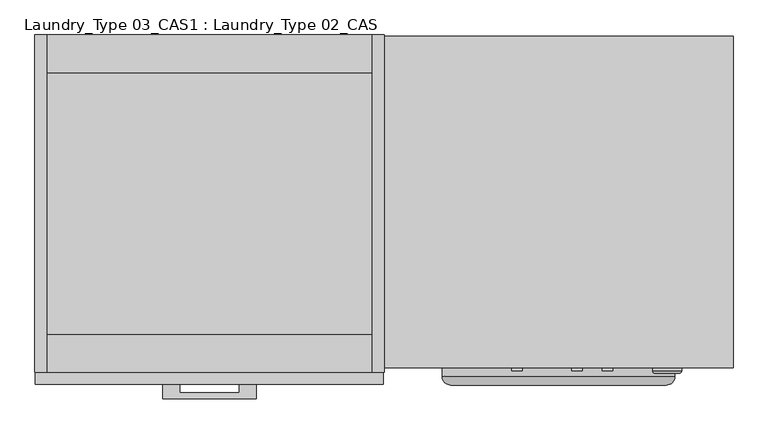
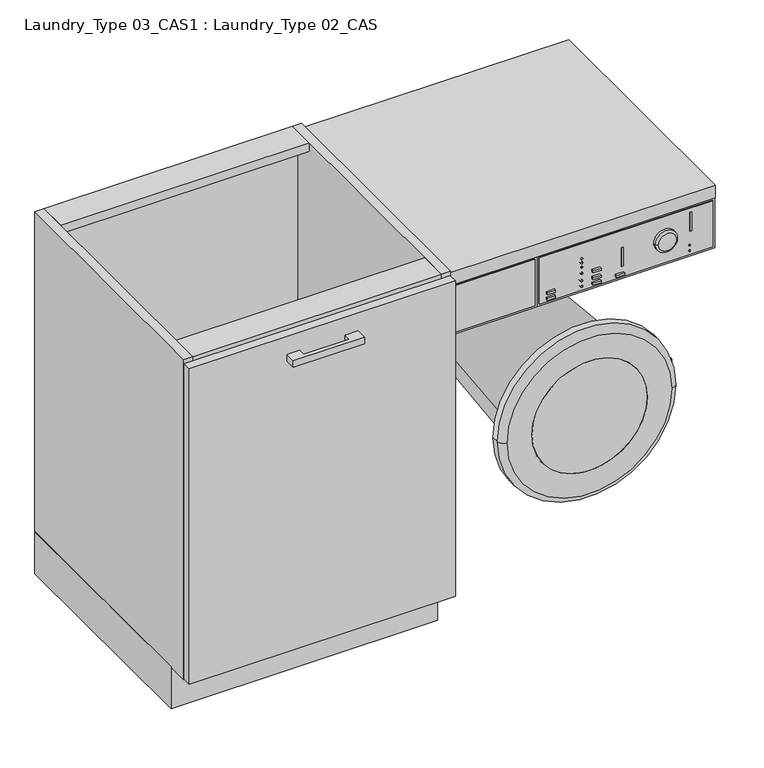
"""IFC4 building model written with IfcOpenShell, lengths in millimetres: furniture geometry, Laundry_Type 03_CAS1 : Laundry_Type 02_CAS."""

from ifc_helpers import new_model, si_unit, point, frame, frame_2d, origin, origin_with_axes, place, context, project, spatial, polyline, circle_curve, ellipse_curve, trimmed, segment, composite_curve, outline, extrude, faceted_brep, source, transform, mapped, element, save
from ifc_brep_helpers import plane_surface, cylinder_surface, revolved_surface, advanced_brep


def laundry_type_03_cas1_laundry_type_02_cas_e1f235b0(model_context):
    return source(origin(), model_context, "Body", "SolidModel", [
        extrude(outline(polyline([(1585.0, -53.039124), (1585.0, -28.039124), (1614.0, -28.039124), (1614.0, -43.039124), (1716.0, -43.039124), (1716.0, -28.039124), (1745.0, -28.039124), (1745.0, -53.039124), (1585.0, -53.039124)])), frame((0.0, 0.0, 792.5), z_axis=(0.0, 0.0, 1.0), x_axis=(1.0, 0.0, 0.0)), (0.0, 0.0, 1.0), 15.0),
        extrude(outline(polyline([(1964.0, -28.039124), (1366.0, -28.039124), (1366.0, -8.039124), (1964.0, -8.039124), (1964.0, -28.039124)])), frame((0.0, 0.0, 100.0), z_axis=(0.0, 0.0, 1.0), x_axis=(1.0, 0.0, 0.0)), (0.0, 0.0, 1.0), 750.0),
        extrude(outline(polyline([(1365.0, 41.960876), (1365.0, 571.960876), (1385.0, 571.960876), (1385.0, 61.960876), (1945.0, 61.960876), (1945.0, 571.960876), (1965.0, 571.960876), (1965.0, 41.960876), (1365.0, 41.960876)])), origin_with_axes(), (0.0, 0.0, 1.0), 100.0),
        extrude(outline(polyline([(1945.0, 571.960876), (1965.0, 571.960876), (1965.0, -8.039124), (1945.0, -8.039124), (1945.0, 571.960876)])), frame((0.0, 0.0, 100.0), z_axis=(0.0, 0.0, 1.0), x_axis=(1.0, 0.0, 0.0)), (0.0, 0.0, 1.0), 760.0),
        extrude(outline(polyline([(1365.0, 571.960876), (1385.0, 571.960876), (1385.0, -8.039124), (1365.0, -8.039124), (1365.0, 571.960876)])), frame((0.0, 0.0, 100.0), z_axis=(0.0, 0.0, 1.0), x_axis=(1.0, 0.0, 0.0)), (0.0, 0.0, 1.0), 760.0),
        extrude(outline(polyline([(1945.0, 551.960876), (1385.0, 551.960876), (1385.0, 571.960876), (1945.0, 571.960876), (1945.0, 551.960876)])), frame((0.0, 0.0, 100.0), z_axis=(0.0, 0.0, 1.0), x_axis=(1.0, 0.0, 0.0)), (0.0, 0.0, 1.0), 740.0),
        extrude(outline(polyline([(1945.0, 551.960876), (1945.0, -8.039124), (1385.0, -8.039124), (1385.0, 551.960876), (1945.0, 551.960876)])), frame((0.0, 0.0, 100.0), z_axis=(0.0, 0.0, 1.0), x_axis=(1.0, 0.0, 0.0)), (0.0, 0.0, 1.0), 20.0),
        extrude(outline(polyline([(1945.0, 571.960876), (1945.0, 506.960876), (1385.0, 506.960876), (1385.0, 571.960876), (1945.0, 571.960876)])), frame((0.0, 0.0, 840.0), z_axis=(0.0, 0.0, 1.0), x_axis=(1.0, 0.0, 0.0)), (0.0, 0.0, 1.0), 20.0),
        extrude(outline(polyline([(1385.0, 56.960876), (1945.0, 56.960876), (1945.0, -8.039124), (1385.0, -8.039124), (1385.0, 56.960876)])), frame((0.0, 0.0, 840.0), z_axis=(0.0, 0.0, 1.0), x_axis=(1.0, 0.0, 0.0)), (0.0, 0.0, 1.0), 20.0),
        extrude(outline(polyline([(2465.0, 0.085876), (2465.0, -4.914124), (2450.0, -4.914124), (2450.0, 0.085876), (2465.0, 0.085876)])), frame((0.0, 0.0, 374.6157103), z_axis=(0.0, 0.0, 1.0), x_axis=(1.0, 0.0, 0.0)), (0.0, 0.0, 1.0), 100.0),
        advanced_brep(
        [(2080.0, -29.914124, 425.0), (2450.0, -29.914124, 425.0), (2135.0, -29.914124, 425.0), (2395.0, -29.914124, 425.0), (2065.0, 0.085876, 425.0), (2465.0, 0.085876, 425.0), (2135.0, 0.085876, 425.0), (2395.0, 0.085876, 425.0), (2465.0, -14.9141438, 425.0), (2065.0, -14.914124, 425.0)],
        [
            (0, 1, circle_curve(frame((2265.0, -29.914124, 425.0), z_axis=(0.0, -1.0, 0.0), x_axis=(-0.9999999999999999, 0.0, 0.0)), 185.0)),
            (1, 0, circle_curve(frame((2265.0, -29.914124, 425.0), z_axis=(0.0, -1.0, 0.0), x_axis=(0.9999999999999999, 0.0, 0.0)), 185.0)),
            (2, 3, circle_curve(frame((2265.0, -29.914124, 425.0), z_axis=(0.0, 1.0, 0.0), x_axis=(0.9999999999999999, 0.0, 0.0)), 130.0)),
            (3, 2, circle_curve(frame((2265.0, -29.914124, 425.0), z_axis=(0.0, 1.0, 0.0), x_axis=(0.9999999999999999, 0.0, 0.0)), 130.0)),
            (4, 5, circle_curve(frame((2265.0, 0.085876, 425.0), z_axis=(0.0, 1.0, 0.0), x_axis=(0.9999999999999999, 0.0, 0.0)), 200.0)),
            (5, 4, circle_curve(frame((2265.0, 0.085876, 425.0), z_axis=(0.0, 1.0, 0.0), x_axis=(0.9999999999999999, 0.0, 0.0)), 200.0)),
            (6, 7, circle_curve(frame((2265.0, 0.085876, 425.0), z_axis=(0.0, -1.0, 0.0), x_axis=(0.9999999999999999, 0.0, 0.0)), 130.0)),
            (7, 6, circle_curve(frame((2265.0, 0.085876, 425.0), z_axis=(0.0, -1.0, 0.0), x_axis=(0.9999999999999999, 0.0, 0.0)), 130.0)),
            (5, 8),
            (8, 9, circle_curve(frame((2265.0, -14.914124, 425.0), z_axis=(0.0, 1.0, 0.0), x_axis=(0.9999999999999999, 0.0, 0.0)), 200.0)),
            (9, 4),
            (9, 8, circle_curve(frame((2265.0, -14.914124, 425.0), z_axis=(0.0, 1.0, 0.0), x_axis=(0.9999999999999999, 0.0, 0.0)), 200.0)),
            (2, 6),
            (7, 3),
            (8, 1, circle_curve(frame((2450.0, -14.914124, 425.0), z_axis=(0.0, 0.0, -1.0), x_axis=(-0.9999999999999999, 0.0, 0.0)), 15.0)),
            (0, 9, circle_curve(frame((2080.0, -14.914124, 425.0), z_axis=(0.0, 0.0, -1.0), x_axis=(0.9999999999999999, 0.0, 0.0)), 15.0)),
        ],
        [
            plane_surface(frame((2465.0, -29.914124, 425.0), z_axis=(0.0, -1.0, 0.0), x_axis=(0.0, 0.0, 1.0))),
            plane_surface(frame((2465.0, 0.085876, 425.0), z_axis=(0.0, 1.0, 0.0), x_axis=(0.0, 0.0, -1.0))),
            cylinder_surface(frame((2265.0, 0.085876, 425.0), z_axis=(0.0, -0.9999999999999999, 0.0), x_axis=(0.9999999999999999, 0.0, 0.0)), 200.0),
            revolved_surface(polyline([(2395.0, 0.085876, 425.0), (2395.0, -29.914123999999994, 425.0)]), (2265.0, 0.085876, 425.0), (0.0, 0.9999999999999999, 0.0)),
            revolved_surface(trimmed(ellipse_curve(frame((2080.0, -14.914124, 425.0), z_axis=(0.0, 0.0, 1.0), x_axis=(0.9999999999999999, 0.0, 0.0)), 15.0, 15.0), [point((2065.0, -14.914124, 425.0))], [point((2080.0, -29.914124, 425.0))], True, "CARTESIAN"), (2265.0, -29.914124, 425.0), (0.0, -0.9999999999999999, 0.0)),
            revolved_surface(trimmed(ellipse_curve(frame((2450.0, -14.914124, 425.0), z_axis=(0.0, 0.0, -1.0), x_axis=(-0.9999999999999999, 0.0, 0.0)), 15.0, 15.0), [point((2465.0, -14.914124, 425.0))], [point((2450.0, -29.914124, 425.0))], True, "CARTESIAN"), (2265.0, -29.914124, 425.0), (0.0, -0.9999999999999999, 0.0)),
        ],
        [
            (0, [[1, 2], [3, 4]]),
            (1, [[5, 6], [7, 8]]),
            (2, [[-6, 9, 10, 11]]),
            (2, [[-5, -11, 12, -9]]),
            (3, [[-3, 13, -8, 14]]),
            (3, [[-4, -14, -7, -13]]),
            (4, [[15, -1, 16, -10]]),
            (5, [[-15, -12, -16, -2]]),
        ],
    ),
        extrude(outline(composite_curve([segment(trimmed(circle_curve(frame_2d((425.0, 2265.0)), 130.0), [point((425.0, 2135.0))], [point((425.0, 2395.0))], False, "CARTESIAN"), True, "CONTINUOUS"), segment(trimmed(circle_curve(frame_2d((425.0, 2265.0)), 130.0), [point((425.0, 2395.0))], [point((425.0, 2135.0))], False, "CARTESIAN"), True, "CONTINUOUS")], self_intersect=False)), frame((0.0, -29.914124, 0.0), z_axis=(0.0, 1.0, 0.0), x_axis=(0.0, 0.0, 1.0)), (0.0, 0.0, 1.0), 30.0),
        extrude(outline(polyline([(2565.0, 570.085876), (2565.0, 0.085876), (1965.0, 0.085876), (1965.0, 570.085876), (2565.0, 570.085876)])), frame((0.0, 0.0, 820.0), z_axis=(0.0, 0.0, 1.0), x_axis=(1.0, 0.0, 0.0)), (0.0, 0.0, 1.0), 30.0),
        faceted_brep([(1970.0, 0.085876, 815.0), (1970.0, 0.085876, 705.0), (2160.0, 0.085876, 705.0), (2160.0, 0.085876, 815.0), (2165.0, 20.085876, 820.0), (2165.0, 20.085876, 700.0), (1965.0, 20.085876, 700.0), (1965.0, 20.085876, 820.0), (1965.0, 2.027875, 820.0), (2165.0, 2.027875, 820.0), (1965.0, 2.027875, 700.0), (2165.0, 2.027875, 700.0), (1970.0, 2.027875, 815.0), (1970.0, 2.027875, 705.0), (2160.0, 2.027875, 705.0), (2160.0, 2.027875, 815.0)], [[[0, 1, 2, 3]], [[4, 5, 6, 7]], [[4, 7, 8, 9]], [[7, 6, 10, 8]], [[6, 5, 11, 10]], [[5, 4, 9, 11]], [[12, 13, 1, 0]], [[1, 13, 14, 2]], [[2, 14, 15, 3]], [[12, 0, 3, 15]], [[9, 8, 10, 11], [13, 12, 15, 14]]]),
        extrude(outline(composite_curve([segment(trimmed(circle_curve(frame_2d((780.0, 2265.0)), 2.0), [point((780.0, 2263.0))], [point((780.0, 2267.0))], False, "CARTESIAN"), True, "CONTINUOUS"), segment(trimmed(circle_curve(frame_2d((780.0, 2265.0)), 2.0), [point((780.0, 2267.0))], [point((780.0, 2263.0))], False, "CARTESIAN"), True, "CONTINUOUS")], self_intersect=False)), frame((0.0, 0.085876, 0.0), z_axis=(0.0, 1.0, 0.0), x_axis=(0.0, 0.0, 1.0)), (0.0, 0.0, 1.0), 20.0),
        extrude(outline(composite_curve([segment(trimmed(circle_curve(frame_2d((770.0, 2265.0)), 2.0), [point((770.0, 2263.0))], [point((770.0, 2267.0))], False, "CARTESIAN"), True, "CONTINUOUS"), segment(trimmed(circle_curve(frame_2d((770.0, 2265.0)), 2.0), [point((770.0, 2267.0))], [point((770.0, 2263.0))], False, "CARTESIAN"), True, "CONTINUOUS")], self_intersect=False)), frame((0.0, 0.085876, 0.0), z_axis=(0.0, 1.0, 0.0), x_axis=(0.0, 0.0, 1.0)), (0.0, 0.0, 1.0), 20.0),
        extrude(outline(composite_curve([segment(trimmed(circle_curve(frame_2d((760.0, 2265.0)), 2.0), [point((760.0, 2263.0))], [point((760.0, 2267.0))], False, "CARTESIAN"), True, "CONTINUOUS"), segment(trimmed(circle_curve(frame_2d((760.0, 2265.0)), 2.0), [point((760.0, 2267.0))], [point((760.0, 2263.0))], False, "CARTESIAN"), True, "CONTINUOUS")], self_intersect=False)), frame((0.0, 0.085876, 0.0), z_axis=(0.0, 1.0, 0.0), x_axis=(0.0, 0.0, 1.0)), (0.0, 0.0, 1.0), 20.0),
        extrude(outline(composite_curve([segment(trimmed(circle_curve(frame_2d((745.0, 2265.0)), 2.0), [point((745.0, 2263.0))], [point((745.0, 2267.0))], False, "CARTESIAN"), True, "CONTINUOUS"), segment(trimmed(circle_curve(frame_2d((745.0, 2265.0)), 2.0), [point((745.0, 2267.0))], [point((745.0, 2263.0))], False, "CARTESIAN"), True, "CONTINUOUS")], self_intersect=False)), frame((0.0, 0.085876, 0.0), z_axis=(0.0, 1.0, 0.0), x_axis=(0.0, 0.0, 1.0)), (0.0, 0.0, 1.0), 20.0),
        extrude(outline(composite_curve([segment(trimmed(circle_curve(frame_2d((727.4920971, 2265.0)), 2.0), [point((727.4920971, 2263.0))], [point((727.4920971, 2267.0))], False, "CARTESIAN"), True, "CONTINUOUS"), segment(trimmed(circle_curve(frame_2d((727.4920971, 2265.0)), 2.0), [point((727.4920971, 2267.0))], [point((727.4920971, 2263.0))], False, "CARTESIAN"), True, "CONTINUOUS")], self_intersect=False)), frame((0.0, 0.085876, 0.0), z_axis=(0.0, 1.0, 0.0), x_axis=(0.0, 0.0, 1.0)), (0.0, 0.0, 1.0), 20.0),
        extrude(outline(composite_curve([segment(trimmed(circle_curve(frame_2d((714.2434315, 2265.0)), 2.0), [point((714.2434315, 2263.0))], [point((714.2434315, 2267.0))], False, "CARTESIAN"), True, "CONTINUOUS"), segment(trimmed(circle_curve(frame_2d((714.2434315, 2265.0)), 2.0), [point((714.2434315, 2267.0))], [point((714.2434315, 2263.0))], False, "CARTESIAN"), True, "CONTINUOUS")], self_intersect=False)), frame((0.0, 0.085876, 0.0), z_axis=(0.0, 1.0, 0.0), x_axis=(0.0, 0.0, 1.0)), (0.0, 0.0, 1.0), 20.0),
        extrude(outline(polyline([(2358.3333333, 0.085876), (2353.3333333, 0.085876), (2353.3333333, 20.085876), (2358.3333333, 20.085876), (2358.3333333, 0.085876)])), frame((0.0, 0.0, 730.0), z_axis=(0.0, 0.0, 1.0), x_axis=(1.0, 0.0, 0.0)), (0.0, 0.0, 1.0), 45.0),
        extrude(outline(polyline([(2512.5211292, 0.085876), (2507.5211292, 0.085876), (2507.5211292, 20.085876), (2512.5211292, 20.085876), (2512.5211292, 0.085876)])), frame((0.0, 0.0, 760.0), z_axis=(0.0, 0.0, 1.0), x_axis=(1.0, 0.0, 0.0)), (0.0, 0.0, 1.0), 45.0),
        extrude(outline(composite_curve([segment(trimmed(circle_curve(frame_2d((727.4920971, 2507.5211292)), 2.0), [point((727.4920971, 2505.5211292))], [point((727.4920971, 2509.5211292))], False, "CARTESIAN"), True, "CONTINUOUS"), segment(trimmed(circle_curve(frame_2d((727.4920971, 2507.5211292)), 2.0), [point((727.4920971, 2509.5211292))], [point((727.4920971, 2505.5211292))], False, "CARTESIAN"), True, "CONTINUOUS")], self_intersect=False)), frame((0.0, 0.085876, 0.0), z_axis=(0.0, 1.0, 0.0), x_axis=(0.0, 0.0, 1.0)), (0.0, 0.0, 1.0), 20.0),
        extrude(outline(composite_curve([segment(trimmed(circle_curve(frame_2d((714.2434315, 2507.5211292)), 2.0), [point((714.2434315, 2505.5211292))], [point((714.2434315, 2509.5211292))], False, "CARTESIAN"), True, "CONTINUOUS"), segment(trimmed(circle_curve(frame_2d((714.2434315, 2507.5211292)), 2.0), [point((714.2434315, 2509.5211292))], [point((714.2434315, 2505.5211292))], False, "CARTESIAN"), True, "CONTINUOUS")], self_intersect=False)), frame((0.0, 0.085876, 0.0), z_axis=(0.0, 1.0, 0.0), x_axis=(0.0, 0.0, 1.0)), (0.0, 0.0, 1.0), 20.0),
        advanced_brep(
        [(2431.6666667, -9.914124, 760.0), (2471.6666667, -9.914124, 760.0), (2476.6666667, 0.085876, 760.0), (2426.6666667, 0.085876, 760.0), (2426.6666667, -4.9141259, 760.0), (2476.6666667, -4.914124, 760.0)],
        [
            (0, 1, circle_curve(frame((2451.6666667, -9.914124, 760.0), z_axis=(0.0, -1.0, 0.0), x_axis=(-1.0, 0.0, 0.0)), 20.0)),
            (1, 0, circle_curve(frame((2451.6666667, -9.914124, 760.0), z_axis=(0.0, -1.0, 0.0), x_axis=(1.0, 0.0, 0.0)), 20.0)),
            (2, 3, circle_curve(frame((2451.6666667, 0.085876, 760.0), z_axis=(0.0, 1.0, 0.0), x_axis=(1.0, 0.0, 0.0)), 25.0)),
            (3, 2, circle_curve(frame((2451.6666667, 0.085876, 760.0), z_axis=(0.0, 1.0, 0.0), x_axis=(1.0, 0.0, 0.0)), 25.0)),
            (3, 4),
            (4, 5, circle_curve(frame((2451.6666667, -4.914124, 760.0), z_axis=(0.0, 1.0, 0.0), x_axis=(1.0, 0.0, 0.0)), 25.0)),
            (5, 2),
            (5, 4, circle_curve(frame((2451.6666667, -4.914124, 760.0), z_axis=(0.0, 1.0, 0.0), x_axis=(1.0, 0.0, 0.0)), 25.0)),
            (5, 1, circle_curve(frame((2471.6666667, -4.914124, 760.0), z_axis=(0.0, 0.0, -1.0), x_axis=(-1.0, 0.0, 0.0)), 5.0)),
            (0, 4, circle_curve(frame((2431.6666667, -4.914124, 760.0), z_axis=(0.0, 0.0, -1.0), x_axis=(1.0, 0.0, 0.0)), 5.0)),
        ],
        [
            plane_surface(frame((2476.6666667, -9.914124, 760.0), z_axis=(0.0, -1.0, 0.0), x_axis=(0.0, 0.0, 1.0))),
            plane_surface(frame((2476.6666667, 0.085876, 760.0), z_axis=(0.0, 1.0, 0.0), x_axis=(0.0, 0.0, -1.0))),
            cylinder_surface(frame((2451.6666667, 0.085876, 760.0), z_axis=(0.0, -1.0, 0.0), x_axis=(1.0, 0.0, 0.0)), 25.0),
            revolved_surface(trimmed(ellipse_curve(frame((2431.6666667, -4.914124, 760.0), z_axis=(0.0, 0.0, 1.0), x_axis=(1.0, 0.0, 0.0)), 5.0, 5.0), [point((2426.6666667, -4.914124, 760.0))], [point((2431.6666667, -9.914124, 760.0))], True, "CARTESIAN"), (2451.6666667, -9.914124, 760.0), (0.0, -1.0, 0.0)),
            revolved_surface(trimmed(ellipse_curve(frame((2471.6666667, -4.914124, 760.0), z_axis=(0.0, 0.0, -1.0), x_axis=(-1.0, 0.0, 0.0)), 5.0, 5.0), [point((2476.6666667, -4.914124, 760.0))], [point((2471.6666667, -9.914124, 760.0))], True, "CARTESIAN"), (2451.6666667, -9.914124, 760.0), (0.0, -1.0, 0.0)),
        ],
        [
            (0, [[1, 2]]),
            (1, [[3, 4]]),
            (2, [[-4, 5, 6, 7]]),
            (2, [[-3, -7, 8, -5]]),
            (3, [[9, -1, 10, -8]]),
            (4, [[-9, -6, -10, -2]]),
        ],
    ),
        extrude(outline(polyline([(2203.0384758, -4.914124), (2184.8257579, -4.914124), (2184.8257579, 0.085876), (2203.0384758, 0.085876), (2203.0384758, -4.914124)])), frame((0.0, 0.0, 725.0), z_axis=(0.0, 0.0, 1.0), x_axis=(1.0, 0.0, 0.0)), (0.0, 0.0, 1.0), 5.0),
        extrude(outline(polyline([(2203.0384758, -4.914124), (2184.8257579, -4.914124), (2184.8257579, 0.085876), (2203.0384758, 0.085876), (2203.0384758, -4.914124)])), frame((0.0, 0.0, 711.6933336), z_axis=(0.0, 0.0, 1.0), x_axis=(1.0, 0.0, 0.0)), (0.0, 0.0, 1.0), 5.0),
        extrude(outline(polyline([(2305.5384758, -4.914124), (2287.3257579, -4.914124), (2287.3257579, 0.085876), (2305.5384758, 0.085876), (2305.5384758, -4.914124)])), frame((0.0, 0.0, 711.6933336), z_axis=(0.0, 0.0, 1.0), x_axis=(1.0, 0.0, 0.0)), (0.0, 0.0, 1.0), 5.0),
        extrude(outline(polyline([(2305.5384758, -4.914124), (2287.3257579, -4.914124), (2287.3257579, 0.085876), (2305.5384758, 0.085876), (2305.5384758, -4.914124)])), frame((0.0, 0.0, 725.0), z_axis=(0.0, 0.0, 1.0), x_axis=(1.0, 0.0, 0.0)), (0.0, 0.0, 1.0), 5.0),
        extrude(outline(polyline([(2305.5384758, -4.914124), (2287.3257579, -4.914124), (2287.3257579, 0.085876), (2305.5384758, 0.085876), (2305.5384758, -4.914124)])), frame((0.0, 0.0, 741.6933336), z_axis=(0.0, 0.0, 1.0), x_axis=(1.0, 0.0, 0.0)), (0.0, 0.0, 1.0), 5.0),
        extrude(outline(polyline([(2358.3333333, -4.914124), (2340.1206154, -4.914124), (2340.1206154, 0.085876), (2358.3333333, 0.085876), (2358.3333333, -4.914124)])), frame((0.0, 0.0, 711.6933336), z_axis=(0.0, 0.0, 1.0), x_axis=(1.0, 0.0, 0.0)), (0.0, 0.0, 1.0), 5.0),
        advanced_brep(
        [(2170.0, 0.085876, 815.0), (2170.0, 0.085876, 705.0), (2560.0, 0.085876, 705.0), (2560.0, 0.085876, 815.0), (2476.6666667, 0.085876, 760.0), (2426.6666667, 0.085876, 760.0), (2512.5211292, 0.085876, 805.0), (2512.5211292, 0.085876, 760.0), (2507.5211292, 0.085876, 760.0), (2507.5211292, 0.085876, 805.0), (2353.3333333, 0.085876, 775.0), (2358.3333333, 0.085876, 775.0), (2358.3333333, 0.085876, 730.0), (2353.3333333, 0.085876, 730.0), (2340.1206154, 0.085876, 711.6933336), (2340.1206154, 0.085876, 716.6933336), (2358.3333333, 0.085876, 716.6933336), (2358.3333333, 0.085876, 711.6933336), (2267.0, 0.085876, 760.0), (2263.0, 0.085876, 760.0), (2287.3257579, 0.085876, 741.6933336), (2287.3257579, 0.085876, 746.6933336), (2305.5384758, 0.085876, 746.6933336), (2305.5384758, 0.085876, 741.6933336), (2287.3257579, 0.085876, 725.0), (2287.3257579, 0.085876, 730.0), (2305.5384758, 0.085876, 730.0), (2305.5384758, 0.085876, 725.0), (2287.3257579, 0.085876, 711.6933336), (2287.3257579, 0.085876, 716.6933336), (2305.5384758, 0.085876, 716.6933336), (2305.5384758, 0.085876, 711.6933336), (2184.8257579, 0.085876, 725.0), (2184.8257579, 0.085876, 730.0), (2203.0384758, 0.085876, 730.0), (2203.0384758, 0.085876, 725.0), (2184.8257579, 0.085876, 711.6933336), (2184.8257579, 0.085876, 716.6933336), (2203.0384758, 0.085876, 716.6933336), (2203.0384758, 0.085876, 711.6933336), (2267.0, 0.085876, 770.0), (2263.0, 0.085876, 770.0), (2267.0, 0.085876, 780.0), (2263.0, 0.085876, 780.0), (2267.0, 0.085876, 745.0), (2263.0, 0.085876, 745.0), (2267.0, 0.085876, 727.4920971), (2263.0, 0.085876, 727.4920971), (2267.0, 0.085876, 714.2434315), (2263.0, 0.085876, 714.2434315), (2509.5211292, 0.085876, 727.4920971), (2505.5211292, 0.085876, 727.4920971), (2509.5211292, 0.085876, 714.2434315), (2505.5211292, 0.085876, 714.2434315), (2565.0, 20.085876, 820.0), (2565.0, 20.085876, 700.0), (2165.0, 20.085876, 700.0), (2165.0, 20.085876, 820.0), (2426.6666667, 20.085876, 760.0), (2476.6666667, 20.085876, 760.0), (2512.5211292, 20.085876, 760.0), (2512.5211292, 20.085876, 805.0), (2507.5211292, 20.085876, 805.0), (2507.5211292, 20.085876, 760.0), (2358.3333333, 20.085876, 775.0), (2353.3333333, 20.085876, 775.0), (2353.3333333, 20.085876, 730.0), (2358.3333333, 20.085876, 730.0), (2340.1206154, 20.085876, 716.6933336), (2340.1206154, 20.085876, 711.6933336), (2358.3333333, 20.085876, 711.6933336), (2358.3333333, 20.085876, 716.6933336), (2263.0, 20.085876, 760.0), (2267.0, 20.085876, 760.0), (2287.3257579, 20.085876, 746.6933336), (2287.3257579, 20.085876, 741.6933336), (2305.5384758, 20.085876, 741.6933336), (2305.5384758, 20.085876, 746.6933336), (2287.3257579, 20.085876, 730.0), (2287.3257579, 20.085876, 725.0), (2305.5384758, 20.085876, 725.0), (2305.5384758, 20.085876, 730.0), (2287.3257579, 20.085876, 716.6933336), (2287.3257579, 20.085876, 711.6933336), (2305.5384758, 20.085876, 711.6933336), (2305.5384758, 20.085876, 716.6933336), (2184.8257579, 20.085876, 730.0), (2184.8257579, 20.085876, 725.0), (2203.0384758, 20.085876, 725.0), (2203.0384758, 20.085876, 730.0), (2184.8257579, 20.085876, 716.6933336), (2184.8257579, 20.085876, 711.6933336), (2203.0384758, 20.085876, 711.6933336), (2203.0384758, 20.085876, 716.6933336), (2263.0, 20.085876, 770.0), (2267.0, 20.085876, 770.0), (2263.0, 20.085876, 780.0), (2267.0, 20.085876, 780.0), (2263.0, 20.085876, 745.0), (2267.0, 20.085876, 745.0), (2263.0, 20.085876, 727.4920971), (2267.0, 20.085876, 727.4920971), (2263.0, 20.085876, 714.2434315), (2267.0, 20.085876, 714.2434315), (2505.5211292, 20.085876, 727.4920971), (2509.5211292, 20.085876, 727.4920971), (2505.5211292, 20.085876, 714.2434315), (2509.5211292, 20.085876, 714.2434315), (2165.0, 2.027875, 820.0), (2565.0, 2.027875, 820.0), (2165.0, 2.027875, 700.0), (2565.0, 2.027875, 700.0), (2170.0, 2.027875, 815.0), (2170.0, 2.027875, 705.0), (2560.0, 2.027875, 705.0), (2560.0, 2.027875, 815.0)],
        [
            (0, 1),
            (1, 2),
            (2, 3),
            (3, 0),
            (4, 5, circle_curve(frame((2451.6666667, 0.085876, 760.0), z_axis=(0.0, 1.0, 0.0), x_axis=(1.0, 0.0, 0.0)), 25.0)),
            (5, 4, circle_curve(frame((2451.6666667, 0.085876, 760.0), z_axis=(0.0, 1.0, 0.0), x_axis=(1.0, 0.0, 0.0)), 25.0)),
            (6, 7),
            (7, 8),
            (8, 9),
            (9, 6),
            (10, 11),
            (11, 12),
            (12, 13),
            (13, 10),
            (14, 15),
            (15, 16),
            (16, 17),
            (17, 14),
            (18, 19, circle_curve(frame((2265.0, 0.085876, 760.0), z_axis=(0.0, 1.0, 0.0), x_axis=(1.0, 0.0, 0.0)), 2.0)),
            (19, 18, circle_curve(frame((2265.0, 0.085876, 760.0), z_axis=(0.0, 1.0, 0.0), x_axis=(1.0, 0.0, 0.0)), 2.0)),
            (20, 21),
            (21, 22),
            (22, 23),
            (23, 20),
            (24, 25),
            (25, 26),
            (26, 27),
            (27, 24),
            (28, 29),
            (29, 30),
            (30, 31),
            (31, 28),
            (32, 33),
            (33, 34),
            (34, 35),
            (35, 32),
            (36, 37),
            (37, 38),
            (38, 39),
            (39, 36),
            (40, 41, circle_curve(frame((2265.0, 0.085876, 770.0), z_axis=(0.0, 1.0, 0.0), x_axis=(1.0, 0.0, 0.0)), 2.0)),
            (41, 40, circle_curve(frame((2265.0, 0.085876, 770.0), z_axis=(0.0, 1.0, 0.0), x_axis=(1.0, 0.0, 0.0)), 2.0)),
            (42, 43, circle_curve(frame((2265.0, 0.085876, 780.0), z_axis=(0.0, 1.0, 0.0), x_axis=(1.0, 0.0, 0.0)), 2.0)),
            (43, 42, circle_curve(frame((2265.0, 0.085876, 780.0), z_axis=(0.0, 1.0, 0.0), x_axis=(1.0, 0.0, 0.0)), 2.0)),
            (44, 45, circle_curve(frame((2265.0, 0.085876, 745.0), z_axis=(0.0, 1.0, 0.0), x_axis=(1.0, 0.0, 0.0)), 2.0)),
            (45, 44, circle_curve(frame((2265.0, 0.085876, 745.0), z_axis=(0.0, 1.0, 0.0), x_axis=(1.0, 0.0, 0.0)), 2.0)),
            (46, 47, circle_curve(frame((2265.0, 0.085876, 727.4920971), z_axis=(0.0, 1.0, 0.0), x_axis=(1.0, 0.0, 0.0)), 2.0)),
            (47, 46, circle_curve(frame((2265.0, 0.085876, 727.4920971), z_axis=(0.0, 1.0, 0.0), x_axis=(1.0, 0.0, 0.0)), 2.0)),
            (48, 49, circle_curve(frame((2265.0, 0.085876, 714.2434315), z_axis=(0.0, 1.0, 0.0), x_axis=(1.0, 0.0, 0.0)), 2.0)),
            (49, 48, circle_curve(frame((2265.0, 0.085876, 714.2434315), z_axis=(0.0, 1.0, 0.0), x_axis=(1.0, 0.0, 0.0)), 2.0)),
            (50, 51, circle_curve(frame((2507.5211292, 0.085876, 727.4920971), z_axis=(0.0, 1.0, 0.0), x_axis=(1.0, 0.0, 0.0)), 2.0)),
            (51, 50, circle_curve(frame((2507.5211292, 0.085876, 727.4920971), z_axis=(0.0, 1.0, 0.0), x_axis=(1.0, 0.0, 0.0)), 2.0)),
            (52, 53, circle_curve(frame((2507.5211292, 0.085876, 714.2434315), z_axis=(0.0, 1.0, 0.0), x_axis=(1.0, 0.0, 0.0)), 2.0)),
            (53, 52, circle_curve(frame((2507.5211292, 0.085876, 714.2434315), z_axis=(0.0, 1.0, 0.0), x_axis=(1.0, 0.0, 0.0)), 2.0)),
            (54, 55),
            (55, 56),
            (56, 57),
            (57, 54),
            (58, 59, circle_curve(frame((2451.6666667, 20.085876, 760.0), z_axis=(0.0, -1.0, 0.0), x_axis=(1.0, 0.0, 0.0)), 25.0)),
            (59, 58, circle_curve(frame((2451.6666667, 20.085876, 760.0), z_axis=(0.0, -1.0, 0.0), x_axis=(1.0, 0.0, 0.0)), 25.0)),
            (60, 61),
            (61, 62),
            (62, 63),
            (63, 60),
            (64, 65),
            (65, 66),
            (66, 67),
            (67, 64),
            (68, 69),
            (69, 70),
            (70, 71),
            (71, 68),
            (72, 73, circle_curve(frame((2265.0, 20.085876, 760.0), z_axis=(0.0, -1.0, 0.0), x_axis=(1.0, 0.0, 0.0)), 2.0)),
            (73, 72, circle_curve(frame((2265.0, 20.085876, 760.0), z_axis=(0.0, -1.0, 0.0), x_axis=(1.0, 0.0, 0.0)), 2.0)),
            (74, 75),
            (75, 76),
            (76, 77),
            (77, 74),
            (78, 79),
            (79, 80),
            (80, 81),
            (81, 78),
            (82, 83),
            (83, 84),
            (84, 85),
            (85, 82),
            (86, 87),
            (87, 88),
            (88, 89),
            (89, 86),
            (90, 91),
            (91, 92),
            (92, 93),
            (93, 90),
            (94, 95, circle_curve(frame((2265.0, 20.085876, 770.0), z_axis=(0.0, -1.0, 0.0), x_axis=(1.0, 0.0, 0.0)), 2.0)),
            (95, 94, circle_curve(frame((2265.0, 20.085876, 770.0), z_axis=(0.0, -1.0, 0.0), x_axis=(1.0, 0.0, 0.0)), 2.0)),
            (96, 97, circle_curve(frame((2265.0, 20.085876, 780.0), z_axis=(0.0, -1.0, 0.0), x_axis=(1.0, 0.0, 0.0)), 2.0)),
            (97, 96, circle_curve(frame((2265.0, 20.085876, 780.0), z_axis=(0.0, -1.0, 0.0), x_axis=(1.0, 0.0, 0.0)), 2.0)),
            (98, 99, circle_curve(frame((2265.0, 20.085876, 745.0), z_axis=(0.0, -1.0, 0.0), x_axis=(1.0, 0.0, 0.0)), 2.0)),
            (99, 98, circle_curve(frame((2265.0, 20.085876, 745.0), z_axis=(0.0, -1.0, 0.0), x_axis=(1.0, 0.0, 0.0)), 2.0)),
            (100, 101, circle_curve(frame((2265.0, 20.085876, 727.4920971), z_axis=(0.0, -1.0, 0.0), x_axis=(1.0, 0.0, 0.0)), 2.0)),
            (101, 100, circle_curve(frame((2265.0, 20.085876, 727.4920971), z_axis=(0.0, -1.0, 0.0), x_axis=(1.0, 0.0, 0.0)), 2.0)),
            (102, 103, circle_curve(frame((2265.0, 20.085876, 714.2434315), z_axis=(0.0, -1.0, 0.0), x_axis=(1.0, 0.0, 0.0)), 2.0)),
            (103, 102, circle_curve(frame((2265.0, 20.085876, 714.2434315), z_axis=(0.0, -1.0, 0.0), x_axis=(1.0, 0.0, 0.0)), 2.0)),
            (104, 105, circle_curve(frame((2507.5211292, 20.085876, 727.4920971), z_axis=(0.0, -1.0, 0.0), x_axis=(1.0, 0.0, 0.0)), 2.0)),
            (105, 104, circle_curve(frame((2507.5211292, 20.085876, 727.4920971), z_axis=(0.0, -1.0, 0.0), x_axis=(1.0, 0.0, 0.0)), 2.0)),
            (106, 107, circle_curve(frame((2507.5211292, 20.085876, 714.2434315), z_axis=(0.0, -1.0, 0.0), x_axis=(1.0, 0.0, 0.0)), 2.0)),
            (107, 106, circle_curve(frame((2507.5211292, 20.085876, 714.2434315), z_axis=(0.0, -1.0, 0.0), x_axis=(1.0, 0.0, 0.0)), 2.0)),
            (57, 108),
            (108, 109),
            (109, 54),
            (56, 110),
            (110, 108),
            (55, 111),
            (111, 110),
            (109, 111),
            (4, 59),
            (58, 5),
            (6, 61),
            (60, 7),
            (9, 62),
            (8, 63),
            (10, 65),
            (64, 11),
            (13, 66),
            (12, 67),
            (14, 69),
            (68, 15),
            (17, 70),
            (16, 71),
            (18, 73),
            (72, 19),
            (20, 75),
            (74, 21),
            (23, 76),
            (22, 77),
            (24, 79),
            (78, 25),
            (27, 80),
            (26, 81),
            (28, 83),
            (82, 29),
            (31, 84),
            (30, 85),
            (32, 87),
            (86, 33),
            (35, 88),
            (34, 89),
            (36, 91),
            (90, 37),
            (39, 92),
            (38, 93),
            (40, 95),
            (94, 41),
            (42, 97),
            (96, 43),
            (44, 99),
            (98, 45),
            (46, 101),
            (100, 47),
            (48, 103),
            (102, 49),
            (50, 105),
            (104, 51),
            (52, 107),
            (106, 53),
            (112, 113),
            (113, 1),
            (0, 112),
            (113, 114),
            (114, 2),
            (114, 115),
            (115, 3),
            (115, 112),
        ],
        [
            plane_surface(frame((2165.0, 0.085876, 820.0), z_axis=(0.0, -1.0, 0.0), x_axis=(-1.0, 0.0, 0.0))),
            plane_surface(frame((2165.0, 20.085876, 820.0), z_axis=(0.0, 1.0, 0.0), x_axis=(1.0, 0.0, 0.0))),
            plane_surface(frame((2565.0, 0.085876, 820.0), z_axis=(0.0, 0.0, 1.0), x_axis=(0.0, 1.0, 0.0))),
            plane_surface(frame((2165.0, 0.085876, 820.0), z_axis=(-1.0, 0.0, 0.0), x_axis=(0.0, 1.0, 0.0))),
            plane_surface(frame((2165.0, 0.085876, 700.0), z_axis=(0.0, 0.0, -1.0), x_axis=(0.0, 1.0, 0.0))),
            plane_surface(frame((2565.0, 0.085876, 700.0), z_axis=(1.0, 0.0, 0.0), x_axis=(0.0, 1.0, 0.0))),
            revolved_surface(polyline([(2476.6666667, 0.08587599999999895, 760.0), (2476.6666667, 20.085876, 760.0)]), (2451.6666667, 20.085876, 760.0), (0.0, -1.0, 0.0)),
            plane_surface(frame((2512.5211292, 0.085876, 760.0), z_axis=(-1.0, 0.0, 0.0), x_axis=(0.0, 1.0, 0.0))),
            plane_surface(frame((2512.5211292, 0.085876, 805.0), z_axis=(0.0, 0.0, -1.0), x_axis=(0.0, 1.0, 0.0))),
            plane_surface(frame((2507.5211292, 0.085876, 805.0), z_axis=(1.0, 0.0, 0.0), x_axis=(0.0, 1.0, 0.0))),
            plane_surface(frame((2507.5211292, 0.085876, 760.0), z_axis=(0.0, 0.0, 1.0), x_axis=(0.0, 1.0, 0.0))),
            plane_surface(frame((2358.3333333, 0.085876, 775.0), z_axis=(0.0, 0.0, -1.0), x_axis=(0.0, 1.0, 0.0))),
            plane_surface(frame((2353.3333333, 0.085876, 775.0), z_axis=(1.0, 0.0, 0.0), x_axis=(0.0, 1.0, 0.0))),
            plane_surface(frame((2353.3333333, 0.085876, 730.0), z_axis=(0.0, 0.0, 1.0), x_axis=(0.0, 1.0, 0.0))),
            plane_surface(frame((2358.3333333, 0.085876, 730.0), z_axis=(-1.0, 0.0, 0.0), x_axis=(0.0, 1.0, 0.0))),
            plane_surface(frame((2340.1206154, 0.085876, 716.6933336), z_axis=(1.0, 0.0, 0.0), x_axis=(0.0, 1.0, 0.0))),
            plane_surface(frame((2340.1206154, 0.085876, 711.6933336), z_axis=(0.0, 0.0, 1.0), x_axis=(0.0, 1.0, 0.0))),
            plane_surface(frame((2358.3333333, 0.085876, 711.6933336), z_axis=(-1.0, 0.0, 0.0), x_axis=(0.0, 1.0, 0.0))),
            plane_surface(frame((2358.3333333, 0.085876, 716.6933336), z_axis=(0.0, 0.0, -1.0), x_axis=(0.0, 1.0, 0.0))),
            revolved_surface(polyline([(2267.0, 0.085876, 760.0), (2267.0, 20.085876, 760.0)]), (2265.0, 0.085876, 760.0), (0.0, -1.0, 0.0)),
            plane_surface(frame((2287.3257579, 0.085876, 746.6933336), z_axis=(1.0, 0.0, 0.0), x_axis=(0.0, 1.0, 0.0))),
            plane_surface(frame((2287.3257579, 0.085876, 741.6933336), z_axis=(0.0, 0.0, 1.0), x_axis=(0.0, 1.0, 0.0))),
            plane_surface(frame((2305.5384758, 0.085876, 741.6933336), z_axis=(-1.0, 0.0, 0.0), x_axis=(0.0, 1.0, 0.0))),
            plane_surface(frame((2305.5384758, 0.085876, 746.6933336), z_axis=(0.0, 0.0, -1.0), x_axis=(0.0, 1.0, 0.0))),
            plane_surface(frame((2287.3257579, 0.085876, 730.0), z_axis=(1.0, 0.0, 0.0), x_axis=(0.0, 1.0, 0.0))),
            plane_surface(frame((2287.3257579, 0.085876, 725.0), z_axis=(0.0, 0.0, 1.0), x_axis=(0.0, 1.0, 0.0))),
            plane_surface(frame((2305.5384758, 0.085876, 725.0), z_axis=(-1.0, 0.0, 0.0), x_axis=(0.0, 1.0, 0.0))),
            plane_surface(frame((2305.5384758, 0.085876, 730.0), z_axis=(0.0, 0.0, -1.0), x_axis=(0.0, 1.0, 0.0))),
            plane_surface(frame((2287.3257579, 0.085876, 716.6933336), z_axis=(1.0, 0.0, 0.0), x_axis=(0.0, 1.0, 0.0))),
            plane_surface(frame((2287.3257579, 0.085876, 711.6933336), z_axis=(0.0, 0.0, 1.0), x_axis=(0.0, 1.0, 0.0))),
            plane_surface(frame((2305.5384758, 0.085876, 711.6933336), z_axis=(-1.0, 0.0, 0.0), x_axis=(0.0, 1.0, 0.0))),
            plane_surface(frame((2305.5384758, 0.085876, 716.6933336), z_axis=(0.0, 0.0, -1.0), x_axis=(0.0, 1.0, 0.0))),
            plane_surface(frame((2184.8257579, 0.085876, 730.0), z_axis=(1.0, 0.0, 0.0), x_axis=(0.0, 1.0, 0.0))),
            plane_surface(frame((2184.8257579, 0.085876, 725.0), z_axis=(0.0, 0.0, 1.0), x_axis=(0.0, 1.0, 0.0))),
            plane_surface(frame((2203.0384758, 0.085876, 725.0), z_axis=(-1.0, 0.0, 0.0), x_axis=(0.0, 1.0, 0.0))),
            plane_surface(frame((2203.0384758, 0.085876, 730.0), z_axis=(0.0, 0.0, -1.0), x_axis=(0.0, 1.0, 0.0))),
            plane_surface(frame((2184.8257579, 0.085876, 716.6933336), z_axis=(1.0, 0.0, 0.0), x_axis=(0.0, 1.0, 0.0))),
            plane_surface(frame((2184.8257579, 0.085876, 711.6933336), z_axis=(0.0, 0.0, 1.0), x_axis=(0.0, 1.0, 0.0))),
            plane_surface(frame((2203.0384758, 0.085876, 711.6933336), z_axis=(-1.0, 0.0, 0.0), x_axis=(0.0, 1.0, 0.0))),
            plane_surface(frame((2203.0384758, 0.085876, 716.6933336), z_axis=(0.0, 0.0, -1.0), x_axis=(0.0, 1.0, 0.0))),
            revolved_surface(polyline([(2267.0, 0.085876, 770.0), (2267.0, 20.085876, 770.0)]), (2265.0, 0.085876, 770.0), (0.0, -1.0, 0.0)),
            revolved_surface(polyline([(2267.0, 0.085876, 780.0), (2267.0, 20.085876, 780.0)]), (2265.0, 0.085876, 780.0), (0.0, -1.0, 0.0)),
            revolved_surface(polyline([(2267.0, 0.085876, 745.0), (2267.0, 20.085876, 745.0)]), (2265.0, 0.085876, 745.0), (0.0, -1.0, 0.0)),
            revolved_surface(polyline([(2267.0, 0.085876, 727.4920971), (2267.0, 20.085876, 727.4920971)]), (2265.0, 0.085876, 727.4920971), (0.0, -1.0, 0.0)),
            revolved_surface(polyline([(2267.0, 0.085876, 714.2434315), (2267.0, 20.085876, 714.2434315)]), (2265.0, 0.085876, 714.2434315), (0.0, -1.0, 0.0)),
            revolved_surface(polyline([(2509.5211292, 0.085876, 727.4920971), (2509.5211292, 20.085876, 727.4920971)]), (2507.5211292, 0.085876, 727.4920971), (0.0, -1.0, 0.0)),
            revolved_surface(polyline([(2509.5211292, 0.085876, 714.2434315), (2509.5211292, 20.085876, 714.2434315)]), (2507.5211292, 0.085876, 714.2434315), (0.0, -1.0, 0.0)),
            plane_surface(frame((2170.0, 0.085876, 815.0), z_axis=(-1.0, 0.0, 0.0), x_axis=(0.0, 0.0, -1.0))),
            plane_surface(frame((2170.0, 0.085876, 705.0), z_axis=(0.0, 0.0, -1.0), x_axis=(1.0, 0.0, 0.0))),
            plane_surface(frame((2560.0, 0.085876, 705.0), z_axis=(1.0, 0.0, 0.0), x_axis=(0.0, 0.0, 1.0))),
            plane_surface(frame((2560.0, 0.085876, 815.0), z_axis=(0.0, 0.0, 1.0), x_axis=(-1.0, 0.0, 0.0))),
            plane_surface(frame((2560.0, 2.027875, 815.0), z_axis=(0.0, -1.0, 0.0), x_axis=(-1.0, 0.0, 0.0))),
        ],
        [
            (0, [[1, 2, 3, 4], [5, 6], [7, 8, 9, 10], [11, 12, 13, 14], [15, 16, 17, 18], [19, 20], [21, 22, 23, 24], [25, 26, 27, 28], [29, 30, 31, 32], [33, 34, 35, 36], [37, 38, 39, 40], [41, 42], [43, 44], [45, 46], [47, 48], [49, 50], [51, 52], [53, 54]]),
            (1, [[55, 56, 57, 58], [59, 60], [61, 62, 63, 64], [65, 66, 67, 68], [69, 70, 71, 72], [73, 74], [75, 76, 77, 78], [79, 80, 81, 82], [83, 84, 85, 86], [87, 88, 89, 90], [91, 92, 93, 94], [95, 96], [97, 98], [99, 100], [101, 102], [103, 104], [105, 106], [107, 108]]),
            (2, [[-58, 109, 110, 111]]),
            (3, [[-57, 112, 113, -109]]),
            (4, [[-56, 114, 115, -112]]),
            (5, [[-55, -111, 116, -114]]),
            (6, [[117, -59, 118, -5]]),
            (6, [[-117, -6, -118, -60]]),
            (7, [[119, -61, 120, -7]]),
            (8, [[-119, -10, 121, -62]]),
            (9, [[-121, -9, 122, -63]]),
            (10, [[-120, -64, -122, -8]]),
            (11, [[123, -65, 124, -11]]),
            (12, [[-123, -14, 125, -66]]),
            (13, [[-125, -13, 126, -67]]),
            (14, [[-124, -68, -126, -12]]),
            (15, [[127, -69, 128, -15]]),
            (16, [[-127, -18, 129, -70]]),
            (17, [[-129, -17, 130, -71]]),
            (18, [[-128, -72, -130, -16]]),
            (19, [[131, -73, 132, -19]]),
            (19, [[-131, -20, -132, -74]]),
            (20, [[133, -75, 134, -21]]),
            (21, [[-133, -24, 135, -76]]),
            (22, [[-135, -23, 136, -77]]),
            (23, [[-134, -78, -136, -22]]),
            (24, [[137, -79, 138, -25]]),
            (25, [[-137, -28, 139, -80]]),
            (26, [[-139, -27, 140, -81]]),
            (27, [[-138, -82, -140, -26]]),
            (28, [[141, -83, 142, -29]]),
            (29, [[-141, -32, 143, -84]]),
            (30, [[-143, -31, 144, -85]]),
            (31, [[-142, -86, -144, -30]]),
            (32, [[145, -87, 146, -33]]),
            (33, [[-145, -36, 147, -88]]),
            (34, [[-147, -35, 148, -89]]),
            (35, [[-146, -90, -148, -34]]),
            (36, [[149, -91, 150, -37]]),
            (37, [[-149, -40, 151, -92]]),
            (38, [[-151, -39, 152, -93]]),
            (39, [[-150, -94, -152, -38]]),
            (40, [[153, -95, 154, -41]]),
            (40, [[-153, -42, -154, -96]]),
            (41, [[155, -97, 156, -43]]),
            (41, [[-155, -44, -156, -98]]),
            (42, [[157, -99, 158, -45]]),
            (42, [[-157, -46, -158, -100]]),
            (43, [[159, -101, 160, -47]]),
            (43, [[-159, -48, -160, -102]]),
            (44, [[161, -103, 162, -49]]),
            (44, [[-161, -50, -162, -104]]),
            (45, [[163, -105, 164, -51]]),
            (45, [[-163, -52, -164, -106]]),
            (46, [[165, -107, 166, -53]]),
            (46, [[-165, -54, -166, -108]]),
            (47, [[167, 168, -1, 169]]),
            (48, [[-168, 170, 171, -2]]),
            (49, [[-171, 172, 173, -3]]),
            (50, [[-169, -4, -173, 174]]),
            (51, [[-110, -113, -115, -116], [-167, -174, -172, -170]]),
        ],
    ),
        advanced_brep(
        [(2174.3251853, 550.085876, 425.0), (2355.6748147, 550.085876, 425.0), (2380.613916, 526.8297878, 425.0), (2149.386084, 526.8297878, 425.0), (2189.3251853, 545.085876, 425.0), (2340.6748147, 545.085876, 425.0), (2340.6748147, 550.085876, 425.0), (2189.3251853, 550.085876, 425.0), (2154.3739043, 526.4810054, 425.0), (2375.6260957, 526.4810054, 425.0), (2355.6748147, 545.085876, 425.0), (2174.3251853, 545.085876, 425.0), (2120.5114529, 17.2253889, 425.0), (2409.4885471, 17.2253889, 425.0), (2122.506581, 15.085876, 425.0), (2407.493419, 15.085876, 425.0), (2135.0, 12.0323979, 425.0), (2395.0, 12.0323979, 425.0), (2398.0534781, 15.085876, 425.0), (2131.9465219, 15.085876, 425.0), (2135.0, 10.085876, 425.0), (2395.0, 10.085876, 425.0), (2115.0748047, 11.1556324, 425.0), (2414.9251953, 11.1556324, 425.0), (2413.9276313, 10.085876, 425.0), (2116.0723687, 10.085876, 425.0)],
        [
            (0, 1, circle_curve(frame((2265.0, 550.085876, 425.0), z_axis=(0.0, -1.0, 0.0), x_axis=(1.0, 0.0, 0.0)), 90.6748147)),
            (1, 2, circle_curve(frame((2355.6748147, 525.085876, 425.0), z_axis=(0.0, 0.0, -1.0), x_axis=(1.0, 0.0, 0.0)), 25.0)),
            (2, 3, circle_curve(frame((2265.0, 526.8297878, 425.0), z_axis=(0.0, 1.0, 0.0), x_axis=(1.0, 0.0, 0.0)), 115.613916)),
            (3, 0, circle_curve(frame((2174.3251853, 525.085876, 425.0), z_axis=(0.0, 0.0, -1.0), x_axis=(-1.0, 0.0, 0.0)), 25.0)),
            (4, 5, circle_curve(frame((2265.0, 545.085876, 425.0), z_axis=(0.0, -1.0, 0.0), x_axis=(1.0, 0.0, 0.0)), 75.6748147)),
            (5, 6),
            (6, 7, circle_curve(frame((2265.0, 550.085876, 425.0), z_axis=(0.0, 1.0, 0.0), x_axis=(1.0, 0.0, 0.0)), 75.6748147)),
            (7, 4),
            (8, 9, circle_curve(frame((2265.0, 526.4810054, 425.0), z_axis=(0.0, -1.0, 0.0), x_axis=(1.0, 0.0, 0.0)), 110.6260957)),
            (9, 10, circle_curve(frame((2355.6748147, 525.085876, 425.0), z_axis=(0.0, 0.0, 1.0), x_axis=(1.0, 0.0, 0.0)), 20.0)),
            (10, 11, circle_curve(frame((2265.0, 545.085876, 425.0), z_axis=(0.0, 1.0, 0.0), x_axis=(1.0, 0.0, 0.0)), 90.6748147)),
            (11, 8, circle_curve(frame((2174.3251853, 525.085876, 425.0), z_axis=(0.0, 0.0, 1.0), x_axis=(-1.0, 0.0, 0.0)), 20.0)),
            (12, 13, circle_curve(frame((2265.0, 17.2253889, 425.0), z_axis=(0.0, -1.0, 0.0), x_axis=(1.0, 0.0, 0.0)), 144.4885471)),
            (13, 9),
            (8, 12),
            (14, 15, circle_curve(frame((2265.0, 15.085876, 425.0), z_axis=(0.0, -1.0, 0.0), x_axis=(1.0, 0.0, 0.0)), 142.493419)),
            (15, 13, circle_curve(frame((2407.493419, 17.085876, 425.0), z_axis=(0.0, 0.0, 1.0), x_axis=(1.0, 0.0, 0.0)), 2.0)),
            (12, 14, circle_curve(frame((2122.506581, 17.085876, 425.0), z_axis=(0.0, 0.0, 1.0), x_axis=(-1.0, 0.0, 0.0)), 2.0)),
            (16, 17, circle_curve(frame((2265.0, 12.0323979, 425.0), z_axis=(0.0, -1.0, 0.0), x_axis=(1.0, 0.0, 0.0)), 130.0)),
            (17, 18, circle_curve(frame((2398.0534781, 12.0323979, 425.0), z_axis=(0.0, 0.0, -1.0), x_axis=(1.0, 0.0, 0.0)), 3.0534781)),
            (18, 19, circle_curve(frame((2265.0, 15.085876, 425.0), z_axis=(0.0, 1.0, 0.0), x_axis=(1.0, 0.0, 0.0)), 133.0534781)),
            (19, 16, circle_curve(frame((2131.9465219, 12.0323979, 425.0), z_axis=(0.0, 0.0, -1.0), x_axis=(-1.0, 0.0, 0.0)), 3.0534781)),
            (20, 21, circle_curve(frame((2265.0, 10.085876, 425.0), z_axis=(0.0, -1.0, 0.0), x_axis=(1.0, 0.0, 0.0)), 130.0)),
            (21, 17),
            (16, 20),
            (22, 23, circle_curve(frame((2265.0, 11.1556324, 425.0), z_axis=(0.0, -1.0, 0.0), x_axis=(1.0, 0.0, 0.0)), 149.9251953)),
            (23, 24, circle_curve(frame((2413.9276313, 11.085876, 425.0), z_axis=(0.0, 0.0, -1.0), x_axis=(1.0, 0.0, 0.0)), 1.0)),
            (24, 25, circle_curve(frame((2265.0, 10.085876, 425.0), z_axis=(0.0, 1.0, 0.0), x_axis=(1.0, 0.0, 0.0)), 148.9276313)),
            (25, 22, circle_curve(frame((2116.0723687, 11.085876, 425.0), z_axis=(0.0, 0.0, -1.0), x_axis=(-1.0, 0.0, 0.0)), 1.0)),
            (2, 23),
            (22, 3),
            (1, 0, circle_curve(frame((2265.0, 550.085876, 425.0), z_axis=(0.0, -1.0, 0.0), x_axis=(-1.0, 0.0, 0.0)), 90.6748147)),
            (3, 2, circle_curve(frame((2265.0, 526.8297878, 425.0), z_axis=(0.0, 1.0, 0.0), x_axis=(-1.0, 0.0, 0.0)), 115.613916)),
            (6, 7, circle_curve(frame((2265.0, 550.085876, 425.0), z_axis=(0.0, -1.0, 0.0), x_axis=(-1.0, 0.0, 0.0)), 75.6748147)),
            (5, 4, circle_curve(frame((2265.0, 545.085876, 425.0), z_axis=(0.0, -1.0, 0.0), x_axis=(-1.0, 0.0, 0.0)), 75.6748147)),
            (10, 11, circle_curve(frame((2265.0, 545.085876, 425.0), z_axis=(0.0, -1.0, 0.0), x_axis=(-1.0, 0.0, 0.0)), 90.6748147)),
            (9, 8, circle_curve(frame((2265.0, 526.4810054, 425.0), z_axis=(0.0, -1.0, 0.0), x_axis=(-1.0, 0.0, 0.0)), 110.6260957)),
            (13, 12, circle_curve(frame((2265.0, 17.2253889, 425.0), z_axis=(0.0, -1.0, 0.0), x_axis=(-1.0, 0.0, 0.0)), 144.4885471)),
            (15, 14, circle_curve(frame((2265.0, 15.085876, 425.0), z_axis=(0.0, -1.0, 0.0), x_axis=(-1.0, 0.0, 0.0)), 142.493419)),
            (18, 19, circle_curve(frame((2265.0, 15.085876, 425.0), z_axis=(0.0, -1.0, 0.0), x_axis=(-1.0, 0.0, 0.0)), 133.0534781)),
            (17, 16, circle_curve(frame((2265.0, 12.0323979, 425.0), z_axis=(0.0, -1.0, 0.0), x_axis=(-1.0, 0.0, 0.0)), 130.0)),
            (21, 20, circle_curve(frame((2265.0, 10.085876, 425.0), z_axis=(0.0, -1.0, 0.0), x_axis=(-1.0, 0.0, 0.0)), 130.0)),
            (24, 25, circle_curve(frame((2265.0, 10.085876, 425.0), z_axis=(0.0, -1.0, 0.0), x_axis=(-1.0, 0.0, 0.0)), 148.9276313)),
            (23, 22, circle_curve(frame((2265.0, 11.1556324, 425.0), z_axis=(0.0, -1.0, 0.0), x_axis=(-1.0, 0.0, 0.0)), 149.9251953)),
        ],
        [
            revolved_surface(trimmed(ellipse_curve(frame((2355.6748147, 525.085876, 425.0), z_axis=(0.0, 0.0, 1.0), x_axis=(1.0, 0.0, 0.0)), 25.0, 25.0), [point((2380.613916, 526.8297878, 425.0))], [point((2355.6748147, 550.085876, 425.0))], True, "CARTESIAN"), (2265.0, 10.085876, 425.0), (0.0, 1.0, 0.0)),
            revolved_surface(polyline([(2340.6748147, 550.085876, 425.0), (2340.6748147, 545.085876, 425.0)]), (2265.0, 10.085876, 425.0), (0.0, 1.0, 0.0)),
            revolved_surface(trimmed(ellipse_curve(frame((2355.6748147, 525.085876, 425.0), z_axis=(0.0, 0.0, -1.0), x_axis=(1.0, 0.0, 0.0)), 20.0, 20.0), [point((2355.6748147, 545.085876, 425.0))], [point((2375.6260957, 526.4810054, 425.0))], True, "CARTESIAN"), (2265.0, 10.085876, 425.0), (0.0, 1.0, 0.0)),
            revolved_surface(polyline([(2375.6260957, 526.4810054, 425.0), (2409.4885471, 17.2253889, 425.0)]), (2265.0, 10.085876, 425.0), (0.0, 1.0, 0.0)),
            revolved_surface(trimmed(ellipse_curve(frame((2407.493419, 17.085876, 425.0), z_axis=(0.0, 0.0, -1.0), x_axis=(1.0, 0.0, 0.0)), 2.0, 2.0), [point((2409.4885471, 17.2253889, 425.0))], [point((2407.493419, 15.085876, 425.0))], True, "CARTESIAN"), (2265.0, 10.085876, 425.0), (0.0, 1.0, 0.0)),
            revolved_surface(trimmed(ellipse_curve(frame((2398.0534781, 12.0323979, 425.0), z_axis=(0.0, 0.0, 1.0), x_axis=(1.0, 0.0, 0.0)), 3.0534781, 3.0534781), [point((2398.0534781, 15.085876, 425.0))], [point((2395.0, 12.0323979, 425.0))], True, "CARTESIAN"), (2265.0, 10.085876, 425.0), (0.0, 1.0, 0.0)),
            revolved_surface(polyline([(2395.0, 12.0323979, 425.0), (2395.0, 10.085876, 425.0)]), (2265.0, 10.085876, 425.0), (0.0, 1.0, 0.0)),
            revolved_surface(trimmed(ellipse_curve(frame((2413.9276313, 11.085876, 425.0), z_axis=(0.0, 0.0, 1.0), x_axis=(1.0, 0.0, 0.0)), 1.0, 1.0), [point((2413.9276313, 10.085876, 425.0))], [point((2414.9251953, 11.1556324, 425.0))], True, "CARTESIAN"), (2265.0, 10.085876, 425.0), (0.0, 1.0, 0.0)),
            revolved_surface(polyline([(2414.9251953, 11.1556324, 425.0), (2380.613916, 526.8297878, 425.0)]), (2265.0, 10.085876, 425.0), (0.0, 1.0, 0.0)),
            revolved_surface(trimmed(ellipse_curve(frame((2174.3251853, 525.085876, 425.0), z_axis=(0.0, 0.0, -1.0), x_axis=(-1.0, 0.0, 0.0)), 25.0, 25.0), [point((2149.386084, 526.8297878, 425.0))], [point((2174.3251853, 550.085876, 425.0))], True, "CARTESIAN"), (2265.0, 10.085876, 425.0), (0.0, 1.0, 0.0)),
            plane_surface(frame((2265.0, 550.085876, 425.0), z_axis=(0.0, 1.0, 0.0), x_axis=(-1.0, 0.0, 0.0))),
            revolved_surface(polyline([(2189.3251853, 550.085876, 425.0), (2189.3251853, 545.085876, 425.0)]), (2265.0, 10.085876, 425.0), (0.0, 1.0, 0.0)),
            plane_surface(frame((2265.0, 545.085876, 425.0), z_axis=(0.0, -1.0, 0.0), x_axis=(-1.0, 0.0, 0.0))),
            revolved_surface(trimmed(ellipse_curve(frame((2174.3251853, 525.085876, 425.0), z_axis=(0.0, 0.0, 1.0), x_axis=(-1.0, 0.0, 0.0)), 20.0, 20.0), [point((2174.3251853, 545.085876, 425.0))], [point((2154.3739043, 526.4810054, 425.0))], True, "CARTESIAN"), (2265.0, 10.085876, 425.0), (0.0, 1.0, 0.0)),
            revolved_surface(polyline([(2154.3739043, 526.4810054, 425.0), (2120.5114529, 17.2253889, 425.0)]), (2265.0, 10.085876, 425.0), (0.0, 1.0, 0.0)),
            revolved_surface(trimmed(ellipse_curve(frame((2122.506581, 17.085876, 425.0), z_axis=(0.0, 0.0, 1.0), x_axis=(-1.0, 0.0, 0.0)), 2.0, 2.0), [point((2120.5114529, 17.2253889, 425.0))], [point((2122.506581, 15.085876, 425.0))], True, "CARTESIAN"), (2265.0, 10.085876, 425.0), (0.0, 1.0, 0.0)),
            plane_surface(frame((2265.0, 15.085876, 425.0), z_axis=(0.0, 1.0, 0.0), x_axis=(-1.0, 0.0, 0.0))),
            revolved_surface(trimmed(ellipse_curve(frame((2131.9465219, 12.0323979, 425.0), z_axis=(0.0, 0.0, -1.0), x_axis=(-1.0, 0.0, 0.0)), 3.0534781, 3.0534781), [point((2131.9465219, 15.085876, 425.0))], [point((2135.0, 12.0323979, 425.0))], True, "CARTESIAN"), (2265.0, 10.085876, 425.0), (0.0, 1.0, 0.0)),
            revolved_surface(polyline([(2135.0, 12.0323979, 425.0), (2135.0, 10.085876, 425.0)]), (2265.0, 10.085876, 425.0), (0.0, 1.0, 0.0)),
            plane_surface(frame((2265.0, 10.085876, 425.0), z_axis=(0.0, -1.0, 0.0), x_axis=(-1.0, 0.0, 0.0))),
            revolved_surface(trimmed(ellipse_curve(frame((2116.0723687, 11.085876, 425.0), z_axis=(0.0, 0.0, -1.0), x_axis=(-1.0, 0.0, 0.0)), 1.0, 1.0), [point((2116.0723687, 10.085876, 425.0))], [point((2115.0748047, 11.1556324, 425.0))], True, "CARTESIAN"), (2265.0, 10.085876, 425.0), (0.0, 1.0, 0.0)),
            revolved_surface(polyline([(2115.0748047, 11.1556324, 425.0), (2149.386084, 526.8297878, 425.0)]), (2265.0, 10.085876, 425.0), (0.0, 1.0, 0.0)),
        ],
        [
            (0, [[1, 2, 3, 4]]),
            (1, [[5, 6, 7, 8]]),
            (2, [[9, 10, 11, 12]]),
            (3, [[13, 14, -9, 15]]),
            (4, [[16, 17, -13, 18]]),
            (5, [[19, 20, 21, 22]]),
            (6, [[23, 24, -19, 25]]),
            (7, [[26, 27, 28, 29]]),
            (8, [[-3, 30, -26, 31]]),
            (9, [[32, -4, 33, -2]]),
            (10, [[-32, -1], [34, -7]]),
            (11, [[35, -8, -34, -6]]),
            (12, [[36, -11], [-35, -5]]),
            (13, [[37, -12, -36, -10]]),
            (14, [[38, -15, -37, -14]]),
            (15, [[39, -18, -38, -17]]),
            (16, [[-39, -16], [40, -21]]),
            (17, [[41, -22, -40, -20]]),
            (18, [[42, -25, -41, -24]]),
            (19, [[43, -28], [-42, -23]]),
            (20, [[44, -29, -43, -27]]),
            (21, [[-33, -31, -44, -30]]),
        ],
    ),
    ])


if __name__ == "__main__":
    model = new_model("IFC4")
    model_context = context("Model", 3, world=origin())
    ifc_project = project(units=[si_unit("LENGTHUNIT", "METRE", prefix="MILLI")], contexts=[model_context])
    site = spatial("IfcSite", under=ifc_project)
    building = spatial("IfcBuilding", under=site)
    placement = place(None, origin())
    laundry_type_03_cas1_laundry_type_02_cas_shape = laundry_type_03_cas1_laundry_type_02_cas_e1f235b0(model_context)
    element("IfcFurniture", 1, ObjectType="Laundry_Type 03_CAS1 : Laundry_Type 02_CAS", at=placement, inside=building, context=model_context, shape_type="MappedRepresentation", body=[
        mapped(laundry_type_03_cas1_laundry_type_02_cas_shape, transform((0.0, 0.0, 0.0), x_axis=(1.0, 0.0, 0.0), y_axis=(0.0, 1.0, 0.0), z_axis=(0.0, 0.0, 1.0))),
    ])
    save(model, "model.ifc")
